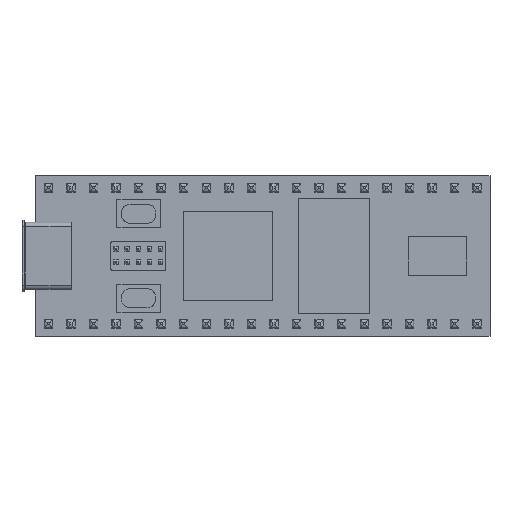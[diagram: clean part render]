
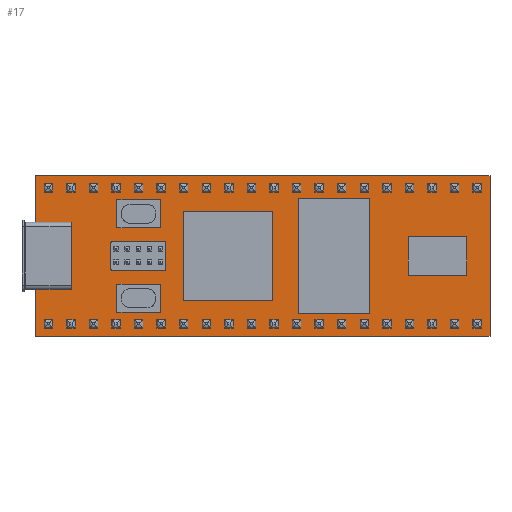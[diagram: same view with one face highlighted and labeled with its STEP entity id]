
A CAD part, top view. The second image highlights one B-rep face of the part: STEP entity #17.
In plain terms, the highlighted free-form (B-spline) face has degree [1, 1] with [2, 2] control points.
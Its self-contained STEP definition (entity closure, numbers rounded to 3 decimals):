
#17 = ADVANCED_FACE('',(#18),#48,.T.);
#18 = FACE_BOUND('',#19,.T.);
#19 = EDGE_LOOP('',(#20,#29,#36,#43));
#20 = ORIENTED_EDGE('',*,*,#21,.T.);
#21 = EDGE_CURVE('',#22,#24,#26,.T.);
#22 = VERTEX_POINT('',#23);
#23 = CARTESIAN_POINT('',(-75.069,38.341,1.53));
#24 = VERTEX_POINT('',#25);
#25 = CARTESIAN_POINT('',(-23.929,38.341,1.53));
#26 = B_SPLINE_CURVE_WITH_KNOTS('',1,(#27,#28),.UNSPECIFIED.,.F.,.F.,(2,
    2),(-2.557,2.557),.PIECEWISE_BEZIER_KNOTS.);
#27 = CARTESIAN_POINT('',(-75.069,38.341,1.53));
#28 = CARTESIAN_POINT('',(-23.929,38.341,1.53));
#29 = ORIENTED_EDGE('',*,*,#30,.T.);
#30 = EDGE_CURVE('',#24,#31,#33,.T.);
#31 = VERTEX_POINT('',#32);
#32 = CARTESIAN_POINT('',(-23.929,56.451,1.53));
#33 = B_SPLINE_CURVE_WITH_KNOTS('',1,(#34,#35),.UNSPECIFIED.,.F.,.F.,(2,
    2),(-0.906,0.906),.PIECEWISE_BEZIER_KNOTS.);
#34 = CARTESIAN_POINT('',(-23.929,38.341,1.53));
#35 = CARTESIAN_POINT('',(-23.929,56.451,1.53));
#36 = ORIENTED_EDGE('',*,*,#37,.T.);
#37 = EDGE_CURVE('',#31,#38,#40,.T.);
#38 = VERTEX_POINT('',#39);
#39 = CARTESIAN_POINT('',(-75.069,56.451,1.53));
#40 = B_SPLINE_CURVE_WITH_KNOTS('',1,(#41,#42),.UNSPECIFIED.,.F.,.F.,(2,
    2),(-2.557,2.557),.PIECEWISE_BEZIER_KNOTS.);
#41 = CARTESIAN_POINT('',(-23.929,56.451,1.53));
#42 = CARTESIAN_POINT('',(-75.069,56.451,1.53));
#43 = ORIENTED_EDGE('',*,*,#44,.T.);
#44 = EDGE_CURVE('',#38,#22,#45,.T.);
#45 = B_SPLINE_CURVE_WITH_KNOTS('',1,(#46,#47),.UNSPECIFIED.,.F.,.F.,(2,
    2),(-0.906,0.906),.PIECEWISE_BEZIER_KNOTS.);
#46 = CARTESIAN_POINT('',(-75.069,56.451,1.53));
#47 = CARTESIAN_POINT('',(-75.069,38.341,1.53));
#48 = B_SPLINE_SURFACE_WITH_KNOTS('',1,1,(
    (#49,#50)
    ,(#51,#52
    )),.UNSPECIFIED.,.F.,.F.,.F.,(2,2),(2,2),(-0.907,0.907),(-2.558,
    2.558),.PIECEWISE_BEZIER_KNOTS.);
#49 = CARTESIAN_POINT('',(-75.079,56.461,1.53));
#50 = CARTESIAN_POINT('',(-23.919,56.461,1.53));
#51 = CARTESIAN_POINT('',(-75.079,38.331,1.53));
#52 = CARTESIAN_POINT('',(-23.919,38.331,1.53));
